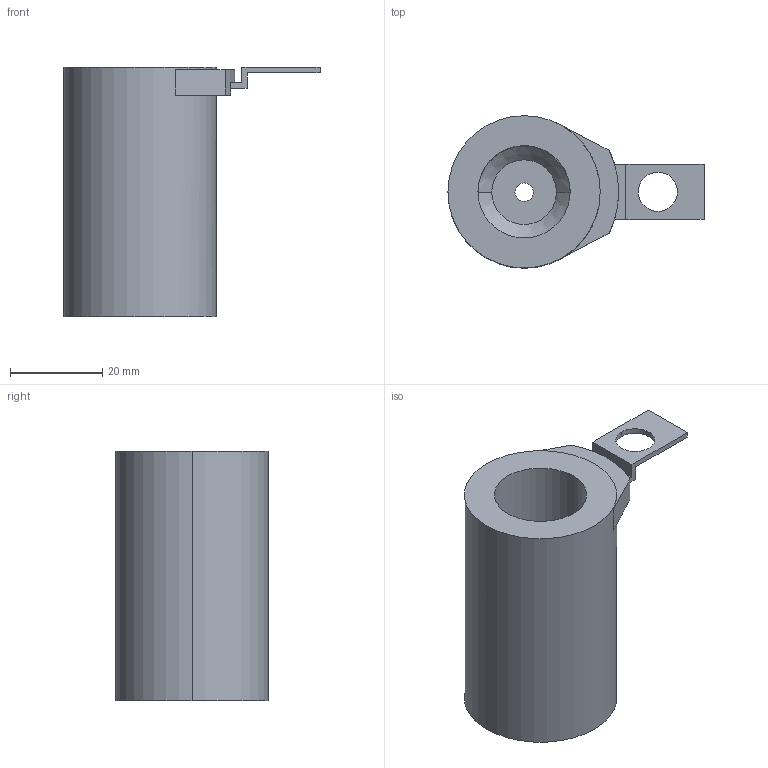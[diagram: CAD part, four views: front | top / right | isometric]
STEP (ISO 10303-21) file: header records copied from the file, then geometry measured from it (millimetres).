
FILE_DESCRIPTION(/* description */ (''),/* implementation_level */ '2;1');
FILE_NAME(/* name */ '3d_tus20-54_06248_r00.stp',/* time_stamp */ '2011-01-10T14:08:54+09:00',/* author */ ('MISUMI'),/* organization */ (''),/* preprocessor_version */ 'ST-DEVELOPER v11',/* originating_system */ 'UGS - NX 5.0',/* authorisation */ '');
FILE_SCHEMA (('CONFIG_CONTROL_DESIGN'));
Length unit declared in the file: millimetre
Products named in the file (1): 3d_tus20-54_06248_r00
Bounding box: 55.5 x 33 x 54 mm (x, y, z)
Volume: 32291 mm3; surface area: 11081.2 mm2
Topology: 2 solids, 2 shells, 32 faces, 83 edges, 56 vertices
Faces by surface type: plane 21, cylinder 9, cone 2
Entity records: 1083 total; most frequent: DIRECTION 177, CARTESIAN_POINT 172, ORIENTED_EDGE 166, EDGE_CURVE 83, AXIS2_PLACEMENT_3D 61, VERTEX_POINT 56, LINE 55, VECTOR 55
